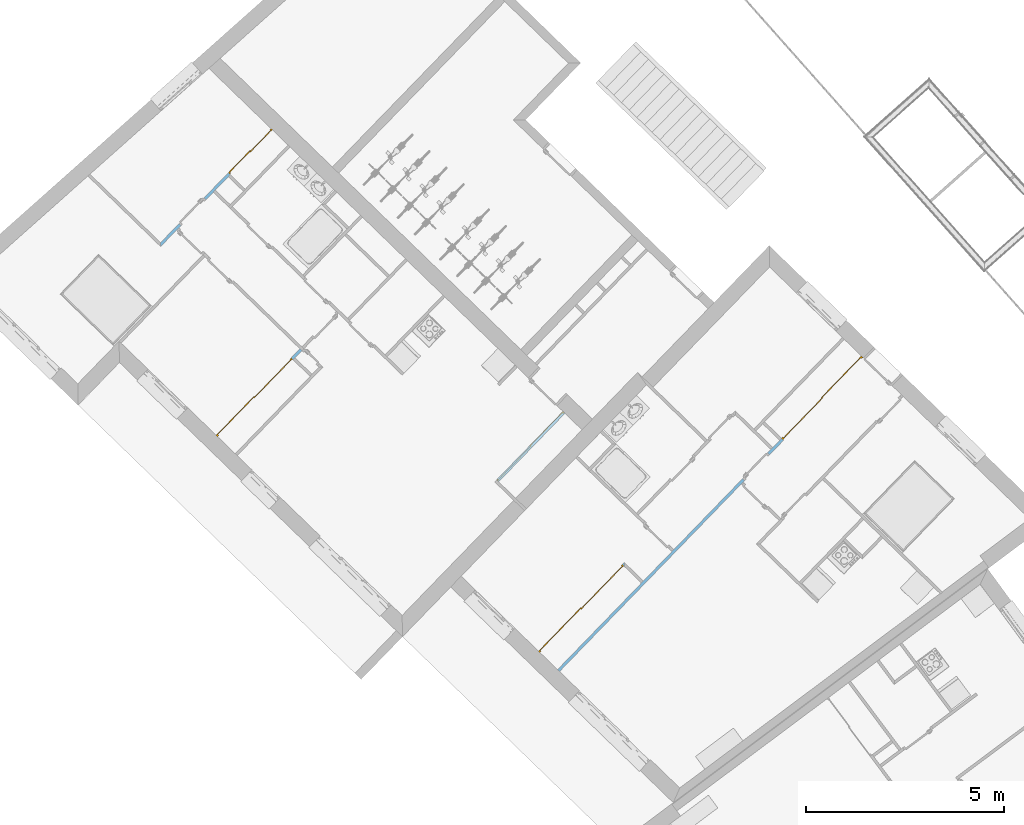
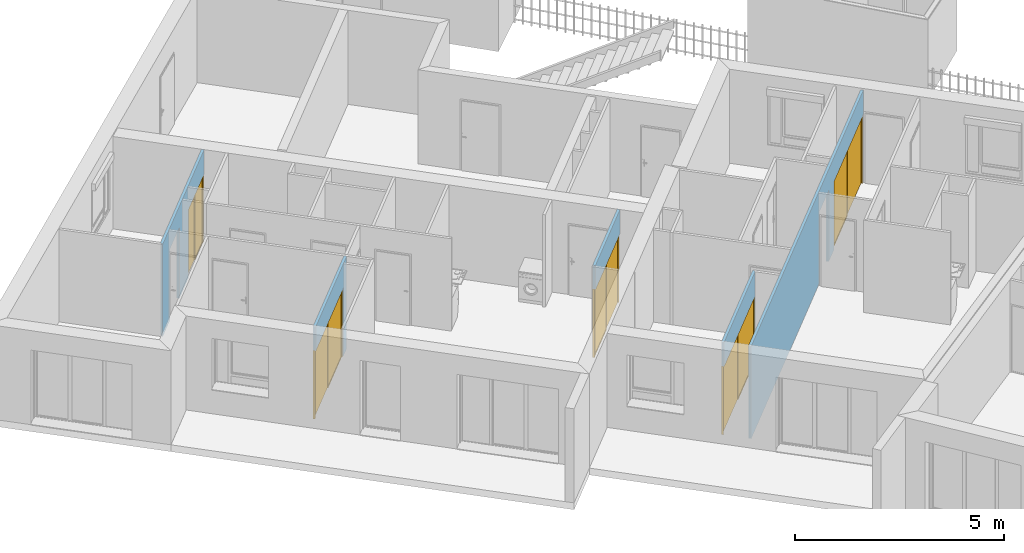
# One storey, part 108 of 195: 5 doors, 7 openings, plus 5 elements that do not belong to this part.
"""IFC2X3 building model written with IfcOpenShell, lengths in metres."""

from ifc_helpers import new_model, entity, si_unit, converted_unit, derived_unit, money_unit, direction, frame, origin_with_axes, origin_2d_with_axis, place, context, subcontext, project, spatial, polyline, rectangle, outline, extrude, open_shell, faceted_brep, surface_model, material, layer, layer_set, layer_usage, type_object, element, fill, save


model = new_model("IFC2X3")

# Units and contexts
model_context = context("Model", 3, precision=1e-05, world=origin_with_axes(), true_north=direction((0.0, 1.0)))
body_context = subcontext(model_context, "Body", "Model", "MODEL_VIEW")
ifc_project = project(units=[si_unit("LENGTHUNIT", "METRE"), si_unit("AREAUNIT", "SQUARE_METRE"), si_unit("VOLUMEUNIT", "CUBIC_METRE"), converted_unit("PLANEANGLEUNIT", "DEGREE", entity("IfcPlaneAngleMeasure", 0.0174532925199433), si_unit("PLANEANGLEUNIT", "RADIAN"), dimensions=[0, 0, 0, 0, 0, 0, 0]), money_unit("CHF"), converted_unit("TIMEUNIT", "Year", entity("IfcTimeMeasure", 31557600.0), si_unit("TIMEUNIT", "SECOND"), dimensions=[0, 0, 1, 0, 0, 0, 0]), si_unit("MASSUNIT", "GRAM", prefix="KILO"), si_unit("THERMODYNAMICTEMPERATUREUNIT", "DEGREE_CELSIUS"), si_unit("LUMINOUSINTENSITYUNIT", "LUMEN"), si_unit("ENERGYUNIT", "JOULE", prefix="MEGA"), derived_unit("THERMALCONDUCTANCEUNIT", [(si_unit("POWERUNIT", "WATT"), 1), (si_unit("LENGTHUNIT", "METRE"), -1), (si_unit("THERMODYNAMICTEMPERATUREUNIT", "KELVIN"), -1)]), derived_unit("SPECIFICHEATCAPACITYUNIT", [(si_unit("ENERGYUNIT", "JOULE"), 1), (si_unit("MASSUNIT", "GRAM", prefix="KILO"), -1), (si_unit("THERMODYNAMICTEMPERATUREUNIT", "KELVIN"), -1)]), derived_unit("MASSDENSITYUNIT", [(si_unit("MASSUNIT", "GRAM", prefix="KILO"), 1), (si_unit("VOLUMEUNIT", "CUBIC_METRE"), -1)])], contexts=[model_context])

# Site, building, storey
site_placement = place(None, origin_with_axes())
site = spatial("IfcSite", under=ifc_project, at=site_placement, Name="Site", CompositionType="ELEMENT")
building_placement = place(site_placement, origin_with_axes())
building = spatial("IfcBuilding", under=site, at=building_placement, Name="Bâtiment", CompositionType="ELEMENT")
storey_placement = place(building_placement, origin_with_axes())
storey = spatial("IfcBuildingStorey", under=building, at=storey_placement, Name="rdc", CompositionType="ELEMENT", Elevation=0.0)

# Wall, opening, door
ifc_material = material(Name="Hachure solide 268963992")
ifc_layer = layer(ifc_material, 0.07, ventilated="UNKNOWN")
ifc_layer_set = layer_set([ifc_layer], Name="Cloison 70 0826278243")
ifc_layer_usage_1 = layer_usage(ifc_layer_set, "AXIS2", "NEGATIVE", 0.0)
wall_type = type_object("IfcWallType", Name="Cloison 70 0826278243 70", PredefinedType="NOTDEFINED")
wall_1_placement = place(storey_placement, frame((9527.093406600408, -1065.523140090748, 57.7), z_axis=(0.0, 0.0, 1.0), x_axis=(-0.6958610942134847, -0.7181763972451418, 0.0)))
wall_1 = element("IfcWallStandardCase", 1, at=wall_1_placement, inside=storey, type_object=wall_type, material=ifc_layer_usage_1, Name="Mur-149", context=body_context, shape_type="SweptSolid", body=[
    extrude(outline(polyline([(0.3799999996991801, -0.06999999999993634), (2.788769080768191, -0.06999999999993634), (2.788769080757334, 0.0), (0.3799999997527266, 0.0), (0.3799999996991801, -0.06999999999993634)])), origin_with_axes(), (0.0, 0.0, 1.0), 2.7),
])
opening_1_placement = place(wall_1_placement, frame((1.584384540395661, 0.0, 0.0), z_axis=(0.0, 0.0, 1.0), x_axis=(1.0, 0.0, 0.0)))
opening_1 = element("IfcOpeningElement", 2, at=opening_1_placement, cuts=wall_1, Name="Por-338", context=body_context, shape_type="SweptSolid", body=[
    extrude(rectangle(XDim=2.408769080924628, YDim=2.0, at=origin_2d_with_axis()), frame((0.0, -0.07000000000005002, 1.0), z_axis=(0.0, 1.0, 0.0), x_axis=(1.0, 0.0, 0.0)), (0.0, 0.0, -1.0), 0.07),
    extrude(rectangle(XDim=2.408769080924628, YDim=2.0, at=origin_2d_with_axis()), frame((0.0, -0.07000000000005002, 1.0), z_axis=(0.0, -1.0, 0.0), x_axis=(1.0, 0.0, 0.0)), (0.0, 0.0, -1.0), 0.07),
])
door_style = type_object("IfcDoorStyle", ConstructionType="NOTDEFINED", OperationType="NOTDEFINED", ParameterTakesPrecedence=False, Sizeable=False)
door_1_placement = place(opening_1_placement, frame((1.204384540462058, 0.0, 0.0), z_axis=(0.0, 0.0, 1.0), x_axis=(-1.0, 0.0, 0.0)))
door_1 = element("IfcDoor", 3, at=door_1_placement, inside=storey, type_object=door_style, Name="Por-338", OverallHeight=2.0, OverallWidth=2.40877, context=body_context, shape_type="SurfaceModel", body=[
    faceted_brep([(2.408769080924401, 0.07000000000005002, 0.0), (2.368769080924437, 0.07000000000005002, 0.0), (2.368769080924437, 0.07000000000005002, 1.960000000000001), (0.03999999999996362, 0.07000000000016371, 1.960000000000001), (0.03999999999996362, 0.07000000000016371, 0.0), (0.0, 0.07000000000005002, 0.0), (0.0, 0.07000000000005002, 2.0), (2.408769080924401, 0.07000000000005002, 2.0), (2.408769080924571, 0.0200000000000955, 0.0), (2.368769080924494, 0.0200000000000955, 0.0), (2.368769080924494, 0.0300000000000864, 0.0), (2.368769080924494, 0.0300000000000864, 1.960000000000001), (0.03999999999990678, 0.02999999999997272, 1.960000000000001), (0.03999999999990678, 0.02999999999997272, 0.0), (0.03999999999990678, 0.0200000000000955, 0.0), (0.0, 0.0200000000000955, 0.0), (0.0, 0.0200000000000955, 2.0), (2.408769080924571, 0.0200000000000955, 2.0), (0.03999999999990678, 0.0200000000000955, 1.960000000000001), (2.368769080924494, 0.0200000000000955, 1.960000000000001)], [[[0, 1, 2, 3, 4, 5, 6, 7]], [[0, 8, 9, 10, 1]], [[1, 10, 11, 2]], [[2, 11, 12, 3]], [[3, 12, 13, 4]], [[5, 4, 13, 14, 15]], [[16, 6, 5, 15]], [[17, 7, 6, 16]], [[8, 0, 7, 17]], [[9, 8, 17, 16, 15, 14, 18, 19]], [[10, 9, 19, 11]], [[11, 19, 18, 12]], [[12, 18, 14, 13]]]),
    faceted_brep([(0.04000000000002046, 0.05000000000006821, 0.0), (1.219384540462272, 0.05000000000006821, 0.0), (1.219384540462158, 0.0300000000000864, 0.0), (0.03999999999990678, 0.02999999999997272, 0.0), (0.04000000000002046, 0.05000000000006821, 1.960000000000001), (1.219384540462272, 0.05000000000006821, 1.960000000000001), (0.06999999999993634, 0.05000000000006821, 0.03000000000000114), (1.189384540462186, 0.05000000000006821, 0.03000000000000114), (1.189384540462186, 0.05000000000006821, 1.93), (0.06999999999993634, 0.05000000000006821, 1.93), (1.219384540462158, 0.0300000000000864, 1.960000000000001), (0.03999999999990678, 0.02999999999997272, 1.960000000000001), (0.06999999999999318, 0.0300000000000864, 0.03000000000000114), (0.06999999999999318, 0.0300000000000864, 1.93), (1.189384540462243, 0.0300000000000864, 1.93), (1.189384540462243, 0.0300000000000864, 0.03000000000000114)], [[[0, 1, 2, 3]], [[0, 4, 5, 1], [6, 7, 8, 9]], [[1, 5, 10, 2]], [[3, 2, 10, 11], [12, 13, 14, 15]], [[4, 0, 3, 11]], [[5, 4, 11, 10]], [[7, 6, 12, 15]], [[8, 7, 15, 14]], [[9, 8, 14, 13]], [[6, 9, 13, 12]]]),
    surface_model("IfcShellBasedSurfaceModel", [(0.06999999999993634, 0.04000000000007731, 0.03000000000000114), (1.189384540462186, 0.04000000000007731, 0.03000000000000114), (1.189384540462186, 0.04000000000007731, 1.93), (0.06999999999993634, 0.04000000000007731, 1.93)], [open_shell([[[0, 1, 2, 3]]])]),
    faceted_brep([(1.189384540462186, 0.07000000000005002, 0.0), (2.368769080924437, 0.07000000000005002, 0.0), (2.368769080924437, 0.05000000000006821, 0.0), (1.189384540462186, 0.05000000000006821, 0.0), (1.189384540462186, 0.07000000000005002, 1.960000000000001), (2.368769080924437, 0.07000000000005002, 1.960000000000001), (2.368769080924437, 0.05000000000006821, 1.960000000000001), (1.189384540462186, 0.05000000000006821, 1.960000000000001)], [[[0, 1, 2, 3]], [[0, 4, 5, 1]], [[1, 5, 6, 2]], [[3, 2, 6, 7]], [[4, 0, 3, 7]], [[5, 4, 7, 6]]]),
])
fill(opening_1, door_1)

# Wall, openings, door
ifc_layer_usage_2 = layer_usage(ifc_layer_set, "AXIS2", "NEGATIVE", 0.0)
wall_2_placement = place(storey_placement, frame((9519.718672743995, -1058.377555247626, 57.7), z_axis=(0.0, 0.0, 1.0), x_axis=(-0.69586109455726, -0.7181763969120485, 0.0)))
wall_2 = element("IfcWallStandardCase", 4, at=wall_2_placement, inside=storey, type_object=wall_type, material=ifc_layer_usage_2, Name="Mur-149", context=body_context, shape_type="SweptSolid", body=[
    extrude(outline(polyline([(0.3799999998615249, -0.07000000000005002), (4.392299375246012, -0.06999999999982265), (4.462299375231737, 0.0), (0.3799999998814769, 0.0), (0.3799999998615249, -0.07000000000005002)])), origin_with_axes(), (0.0, 0.0, 1.0), 2.7),
])
opening_2_placement = place(wall_2_placement, frame((3.268545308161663, 0.0, 0.0), z_axis=(0.0, 0.0, 1.0), x_axis=(1.0, 0.0, 0.0)))
element("IfcOpeningElement", 5, at=opening_2_placement, cuts=wall_2, Name="Por-303", context=body_context, shape_type="SweptSolid", body=[
    extrude(rectangle(XDim=0.9099999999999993, YDim=2.079999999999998, at=origin_2d_with_axis()), frame((0.0, 0.07000000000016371, 1.039999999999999), z_axis=(0.0, 1.0, 0.0), x_axis=(1.0, 0.0, 0.0)), (0.0, 0.0, -1.0), 0.14),
])
opening_3_placement = place(wall_2_placement, frame((1.15726056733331, 0.0, 0.0), z_axis=(0.0, 0.0, 1.0), x_axis=(1.0, 0.0, 0.0)))
opening_3 = element("IfcOpeningElement", 6, at=opening_3_placement, cuts=wall_2, Name="Por-338", context=body_context, shape_type="SweptSolid", body=[
    extrude(rectangle(XDim=1.554521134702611, YDim=2.0, at=origin_2d_with_axis()), frame((0.0, -0.06999999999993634, 1.0), z_axis=(0.0, 1.0, 0.0), x_axis=(1.0, 0.0, 0.0)), (0.0, 0.0, -1.0), 0.07),
    extrude(rectangle(XDim=1.554521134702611, YDim=2.0, at=origin_2d_with_axis()), frame((0.0, -0.07000000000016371, 1.0), z_axis=(0.0, -1.0, 0.0), x_axis=(1.0, 0.0, 0.0)), (0.0, 0.0, -1.0), 0.07),
])
door_2_placement = place(opening_3_placement, frame((0.7772605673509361, 0.0, 0.0), z_axis=(0.0, 0.0, 1.0), x_axis=(-1.0, 0.0, 0.0)))
door_2 = element("IfcDoor", 7, at=door_2_placement, inside=storey, type_object=door_style, Name="Por-338", OverallHeight=2.0, OverallWidth=1.55452, context=body_context, shape_type="SurfaceModel", body=[
    faceted_brep([(0.0, 0.06999999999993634, 0.0), (0.0, 0.06999999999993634, 2.0), (1.554521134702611, 0.06999999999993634, 2.0), (1.554521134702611, 0.06999999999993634, 0.0), (1.514521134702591, 0.06999999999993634, 0.0), (1.514521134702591, 0.06999999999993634, 1.960000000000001), (0.04000000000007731, 0.06999999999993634, 1.960000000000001), (0.04000000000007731, 0.06999999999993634, 0.0), (0.0, 0.01999999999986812, 0.0), (0.0, 0.01999999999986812, 2.0), (1.554521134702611, 0.01999999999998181, 2.0), (1.554521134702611, 0.01999999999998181, 0.0), (1.514521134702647, 0.01999999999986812, 0.0), (1.514521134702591, 0.02999999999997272, 0.0), (1.514521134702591, 0.02999999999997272, 1.960000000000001), (0.04000000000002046, 0.02999999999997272, 1.960000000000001), (0.04000000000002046, 0.02999999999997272, 0.0), (0.04000000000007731, 0.01999999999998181, 0.0), (0.04000000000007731, 0.01999999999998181, 1.960000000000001), (1.514521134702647, 0.01999999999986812, 1.960000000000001)], [[[0, 1, 2, 3, 4, 5, 6, 7]], [[8, 9, 1, 0]], [[9, 10, 2, 1]], [[10, 11, 3, 2]], [[3, 11, 12, 13, 4]], [[5, 4, 13, 14]], [[6, 5, 14, 15]], [[7, 6, 15, 16]], [[0, 7, 16, 17, 8]], [[17, 18, 19, 12, 11, 10, 9, 8]], [[14, 13, 12, 19]], [[15, 14, 19, 18]], [[16, 15, 18, 17]]]),
    faceted_brep([(1.514521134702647, 0.04999999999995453, 0.0), (1.514521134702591, 0.02999999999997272, 0.0), (0.7622605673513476, 0.02999999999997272, 0.0), (0.7622605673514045, 0.04999999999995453, 0.0), (1.514521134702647, 0.04999999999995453, 1.960000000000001), (1.514521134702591, 0.02999999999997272, 1.960000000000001), (0.7622605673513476, 0.02999999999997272, 1.960000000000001), (1.484521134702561, 0.02999999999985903, 0.03000000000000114), (0.7922605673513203, 0.02999999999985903, 0.03000000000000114), (0.7922605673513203, 0.02999999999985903, 1.93), (1.484521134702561, 0.02999999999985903, 1.93), (0.7622605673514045, 0.04999999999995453, 1.960000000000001), (1.484521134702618, 0.04999999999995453, 0.03000000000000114), (1.484521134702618, 0.04999999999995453, 1.93), (0.792260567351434, 0.04999999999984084, 1.93), (0.792260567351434, 0.04999999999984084, 0.03000000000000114)], [[[0, 1, 2, 3]], [[4, 5, 1, 0]], [[1, 5, 6, 2], [7, 8, 9, 10]], [[3, 2, 6, 11]], [[0, 3, 11, 4], [12, 13, 14, 15]], [[11, 6, 5, 4]], [[15, 8, 7, 12]], [[14, 9, 8, 15]], [[13, 10, 9, 14]], [[12, 7, 10, 13]]]),
    surface_model("IfcShellBasedSurfaceModel", [(1.484521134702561, 0.03999999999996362, 0.03000000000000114), (1.484521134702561, 0.03999999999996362, 1.93), (0.7922605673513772, 0.03999999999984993, 1.93), (0.7922605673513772, 0.03999999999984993, 0.03000000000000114)], [open_shell([[[0, 1, 2, 3]]])]),
    faceted_brep([(0.7922605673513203, 0.06999999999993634, 0.0), (0.792260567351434, 0.04999999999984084, 0.0), (0.04000000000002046, 0.04999999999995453, 0.0), (0.04000000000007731, 0.06999999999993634, 0.0), (0.7922605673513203, 0.06999999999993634, 1.960000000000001), (0.792260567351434, 0.04999999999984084, 1.960000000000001), (0.04000000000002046, 0.04999999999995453, 1.960000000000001), (0.04000000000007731, 0.06999999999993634, 1.960000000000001)], [[[0, 1, 2, 3]], [[4, 5, 1, 0]], [[1, 5, 6, 2]], [[3, 2, 6, 7]], [[0, 3, 7, 4]], [[7, 6, 5, 4]]]),
])
fill(opening_3, door_2)

# Wall, opening, door
ifc_layer_usage_3 = layer_usage(ifc_layer_set, "AXIS2", "POSITIVE", 0.0)
wall_3_placement = place(storey_placement, frame((9520.181388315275, -1064.115358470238, 57.7), z_axis=(0.0, 0.0, 1.0), x_axis=(-0.6958610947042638, -0.7181763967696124, 0.0)))
wall_3 = element("IfcWallStandardCase", 8, at=wall_3_placement, inside=storey, type_object=wall_type, material=ifc_layer_usage_3, Name="Mur-149", context=body_context, shape_type="SweptSolid", body=[
    extrude(outline(polyline([(0.06999999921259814, 0.0), (3.111145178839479, 0.0), (3.111145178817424, 0.06999999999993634), (0.06999999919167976, 0.07000000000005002), (0.06999999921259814, 0.0)])), origin_with_axes(), (0.0, 0.0, 1.0), 2.7),
])
opening_4_placement = place(wall_3_placement, frame((1.75057258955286, 0.0, 0.0), z_axis=(0.0, 0.0, 1.0), x_axis=(1.0, 0.0, 0.0)))
opening_4 = element("IfcOpeningElement", 9, at=opening_4_placement, cuts=wall_3, Name="Por-337", context=body_context, shape_type="SweptSolid", body=[
    extrude(rectangle(XDim=2.721145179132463, YDim=2.0, at=origin_2d_with_axis()), frame((0.0, 0.0, 1.0), z_axis=(0.0, 1.0, 0.0), x_axis=(1.0, 0.0, 0.0)), (0.0, 0.0, -1.0), 0.07),
    extrude(rectangle(XDim=2.721145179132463, YDim=2.0, at=origin_2d_with_axis()), frame((0.0, 0.0, 1.0), z_axis=(0.0, -1.0, 0.0), x_axis=(1.0, 0.0, 0.0)), (0.0, 0.0, -1.0), 0.07),
])
door_3_placement = place(opening_4_placement, frame((1.360572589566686, 0.0, 0.0), z_axis=(0.0, 0.0, 1.0), x_axis=(-1.0, 0.0, 0.0)))
door_3 = element("IfcDoor", 10, at=door_3_placement, inside=storey, type_object=door_style, Name="Por-337", OverallHeight=2.0, OverallWidth=2.72114, context=body_context, shape_type="SurfaceModel", body=[
    faceted_brep([(0.0, 0.0, 0.0), (0.0, 0.0, 2.0), (2.721145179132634, 0.0, 2.0), (2.721145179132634, 0.0, 0.0), (2.681145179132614, 0.0, 0.0), (2.681145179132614, 0.0, 1.960000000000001), (0.03999999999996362, 0.0, 1.960000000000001), (0.03999999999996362, 0.0, 0.0), (0.0, -0.04999999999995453, 0.0), (0.0, -0.04999999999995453, 2.0), (2.721145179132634, -0.04999999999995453, 2.0), (2.721145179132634, -0.04999999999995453, 0.0), (2.681145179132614, -0.05000000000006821, 0.0), (2.681145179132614, -0.04000000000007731, 0.0), (2.681145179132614, -0.04000000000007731, 1.960000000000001), (0.04000000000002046, -0.03999999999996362, 1.960000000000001), (0.04000000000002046, -0.03999999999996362, 0.0), (0.03999999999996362, -0.04999999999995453, 0.0), (0.03999999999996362, -0.04999999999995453, 1.960000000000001), (2.681145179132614, -0.05000000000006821, 1.960000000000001)], [[[0, 1, 2, 3, 4, 5, 6, 7]], [[8, 9, 1, 0]], [[9, 10, 2, 1]], [[10, 11, 3, 2]], [[3, 11, 12, 13, 4]], [[5, 4, 13, 14]], [[6, 5, 14, 15]], [[7, 6, 15, 16]], [[0, 7, 16, 17, 8]], [[17, 18, 19, 12, 11, 10, 9, 8]], [[14, 13, 12, 19]], [[15, 14, 19, 18]], [[16, 15, 18, 17]]]),
    faceted_brep([(2.6811451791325, -0.01999999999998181, 0.0), (2.681145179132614, -0.04000000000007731, 0.0), (1.345572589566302, -0.04000000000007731, 0.0), (1.345572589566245, -0.01999999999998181, 0.0), (2.6811451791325, -0.01999999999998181, 1.960000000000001), (2.681145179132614, -0.04000000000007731, 1.960000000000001), (1.345572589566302, -0.04000000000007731, 1.960000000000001), (2.651145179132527, -0.04000000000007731, 0.03000000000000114), (1.375572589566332, -0.03999999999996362, 0.03000000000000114), (1.375572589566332, -0.03999999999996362, 1.93), (2.651145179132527, -0.04000000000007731, 1.93), (1.345572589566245, -0.01999999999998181, 1.960000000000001), (2.651145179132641, -0.01999999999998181, 0.03000000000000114), (2.651145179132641, -0.01999999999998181, 1.93), (1.375572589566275, -0.01999999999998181, 1.93), (1.375572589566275, -0.01999999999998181, 0.03000000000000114)], [[[0, 1, 2, 3]], [[4, 5, 1, 0]], [[1, 5, 6, 2], [7, 8, 9, 10]], [[3, 2, 6, 11]], [[0, 3, 11, 4], [12, 13, 14, 15]], [[11, 6, 5, 4]], [[15, 8, 7, 12]], [[14, 9, 8, 15]], [[13, 10, 9, 14]], [[12, 7, 10, 13]]]),
    surface_model("IfcShellBasedSurfaceModel", [(2.651145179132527, -0.02999999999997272, 0.03000000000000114), (2.651145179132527, -0.02999999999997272, 1.93), (1.375572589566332, -0.02999999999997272, 1.93), (1.375572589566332, -0.02999999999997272, 0.03000000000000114)], [open_shell([[[0, 1, 2, 3]]])]),
    faceted_brep([(1.375572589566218, 0.0, 0.0), (1.375572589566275, -0.01999999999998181, 0.0), (0.03999999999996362, -0.01999999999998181, 0.0), (0.03999999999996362, 0.0, 0.0), (1.375572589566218, 0.0, 1.960000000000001), (1.375572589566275, -0.01999999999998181, 1.960000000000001), (0.03999999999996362, -0.01999999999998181, 1.960000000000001), (0.03999999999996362, 0.0, 1.960000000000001)], [[[0, 1, 2, 3]], [[4, 5, 1, 0]], [[1, 5, 6, 2]], [[3, 2, 6, 7]], [[0, 3, 7, 4]], [[7, 6, 5, 4]]]),
])
fill(opening_4, door_3)

# Wall, openings, door
ifc_layer_usage_4 = layer_usage(ifc_layer_set, "AXIS2", "POSITIVE", 0.0)
wall_4_placement = place(storey_placement, frame((9534.584027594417, -1064.073933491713, 57.7), z_axis=(0.0, 0.0, 1.0), x_axis=(-0.695861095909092, -0.7181763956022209, 0.0)))
wall_4 = element("IfcWallStandardCase", 11, at=wall_4_placement, inside=storey, type_object=wall_type, material=ifc_layer_usage_4, Name="Mur-149", context=body_context, shape_type="SweptSolid", body=[
    extrude(outline(polyline([(0.3799999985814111, 0.0), (11.41300708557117, 0.0), (11.41300708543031, 0.06999999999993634), (0.3799999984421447, 0.07000000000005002), (0.3799999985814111, 0.0)])), origin_with_axes(), (0.0, 0.0, 1.0), 2.7),
])
opening_5_placement = place(wall_4_placement, frame((4.240435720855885, 0.0, 0.0), z_axis=(0.0, 0.0, 1.0), x_axis=(1.0, 0.0, 0.0)))
element("IfcOpeningElement", 12, at=opening_5_placement, cuts=wall_4, Name="Por-315", context=body_context, shape_type="SweptSolid", body=[
    extrude(rectangle(XDim=0.9099999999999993, YDim=2.079999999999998, at=origin_2d_with_axis()), frame((0.0, 0.06999999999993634, 1.039999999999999), z_axis=(0.0, -1.0, 0.0), x_axis=(-1.0, 0.0, 0.0)), (0.0, 0.0, 1.0), 0.14),
])
opening_6_placement = place(wall_4_placement, frame((1.828267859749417, 0.0, 0.0), z_axis=(0.0, 0.0, 1.0), x_axis=(1.0, 0.0, 0.0)))
opening_6 = element("IfcOpeningElement", 13, at=opening_6_placement, cuts=wall_4, Name="Por-342", context=body_context, shape_type="SweptSolid", body=[
    extrude(rectangle(XDim=2.896535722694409, YDim=2.0, at=origin_2d_with_axis()), frame((0.0, 0.0, 1.0), z_axis=(0.0, 1.0, 0.0), x_axis=(1.0, 0.0, 0.0)), (0.0, 0.0, -1.0), 0.07),
    extrude(rectangle(XDim=2.896535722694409, YDim=2.0, at=origin_2d_with_axis()), frame((0.0, 0.0, 1.0), z_axis=(0.0, -1.0, 0.0), x_axis=(1.0, 0.0, 0.0)), (0.0, 0.0, -1.0), 0.07),
])
door_4_placement = place(opening_6_placement, frame((1.448267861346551, 0.0, 0.0), z_axis=(0.0, 0.0, 1.0), x_axis=(-1.0, 0.0, 0.0)))
door_4 = element("IfcDoor", 14, at=door_4_placement, inside=storey, type_object=door_style, Name="Por-342", OverallHeight=2.0, OverallWidth=2.89654, context=body_context, shape_type="SurfaceModel", body=[
    faceted_brep([(2.896535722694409, 0.0, 0.0), (2.856535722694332, 0.0, 0.0), (2.856535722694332, 0.0, 1.960000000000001), (0.04000000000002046, 0.0, 1.960000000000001), (0.04000000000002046, 0.0, 0.0), (0.0, 0.0, 0.0), (0.0, 0.0, 2.0), (2.896535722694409, 0.0, 2.0), (2.896535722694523, -0.05000000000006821, 0.0), (2.856535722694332, -0.04999999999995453, 0.0), (2.856535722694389, -0.03999999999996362, 0.0), (2.856535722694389, -0.03999999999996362, 1.960000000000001), (0.04000000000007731, -0.03999999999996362, 1.960000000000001), (0.04000000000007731, -0.03999999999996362, 0.0), (0.04000000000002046, -0.04999999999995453, 0.0), (0.0, -0.05000000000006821, 0.0), (0.0, -0.05000000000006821, 2.0), (2.896535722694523, -0.05000000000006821, 2.0), (0.04000000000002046, -0.04999999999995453, 1.960000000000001), (2.856535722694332, -0.04999999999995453, 1.960000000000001)], [[[0, 1, 2, 3, 4, 5, 6, 7]], [[0, 8, 9, 10, 1]], [[1, 10, 11, 2]], [[2, 11, 12, 3]], [[3, 12, 13, 4]], [[5, 4, 13, 14, 15]], [[16, 6, 5, 15]], [[17, 7, 6, 16]], [[8, 0, 7, 17]], [[9, 8, 17, 16, 15, 14, 18, 19]], [[10, 9, 19, 11]], [[11, 19, 18, 12]], [[12, 18, 14, 13]]]),
    faceted_brep([(0.03999999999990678, -0.01999999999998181, 0.0), (1.463267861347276, -0.01999999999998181, 0.0), (1.463267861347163, -0.03999999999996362, 0.0), (0.04000000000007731, -0.03999999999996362, 0.0), (0.03999999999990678, -0.01999999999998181, 1.960000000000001), (1.463267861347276, -0.01999999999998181, 1.960000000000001), (0.06999999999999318, -0.01999999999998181, 0.03000000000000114), (1.43326786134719, -0.01999999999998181, 0.03000000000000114), (1.43326786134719, -0.01999999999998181, 1.93), (0.06999999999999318, -0.01999999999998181, 1.93), (1.463267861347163, -0.03999999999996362, 1.960000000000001), (0.04000000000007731, -0.03999999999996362, 1.960000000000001), (0.07000000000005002, -0.03999999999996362, 0.03000000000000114), (0.07000000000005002, -0.03999999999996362, 1.93), (1.433267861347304, -0.04000000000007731, 1.93), (1.433267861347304, -0.04000000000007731, 0.03000000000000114)], [[[0, 1, 2, 3]], [[0, 4, 5, 1], [6, 7, 8, 9]], [[1, 5, 10, 2]], [[3, 2, 10, 11], [12, 13, 14, 15]], [[4, 0, 3, 11]], [[5, 4, 11, 10]], [[7, 6, 12, 15]], [[8, 7, 15, 14]], [[9, 8, 14, 13]], [[6, 9, 13, 12]]]),
    surface_model("IfcShellBasedSurfaceModel", [(0.07000000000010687, -0.02999999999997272, 0.03000000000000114), (1.433267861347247, -0.02999999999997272, 0.03000000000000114), (1.433267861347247, -0.02999999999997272, 1.93), (0.07000000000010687, -0.02999999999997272, 1.93)], [open_shell([[[0, 1, 2, 3]]])]),
    faceted_brep([(1.433267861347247, 0.0, 0.0), (2.856535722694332, 0.0, 0.0), (2.856535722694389, -0.01999999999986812, 0.0), (1.43326786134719, -0.01999999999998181, 0.0), (1.433267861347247, 0.0, 1.960000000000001), (2.856535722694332, 0.0, 1.960000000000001), (2.856535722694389, -0.01999999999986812, 1.960000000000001), (1.43326786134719, -0.01999999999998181, 1.960000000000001)], [[[0, 1, 2, 3]], [[0, 4, 5, 1]], [[1, 5, 6, 2]], [[3, 2, 6, 7]], [[4, 0, 3, 7]], [[5, 4, 7, 6]]]),
])
fill(opening_6, door_4)

# Wall, opening, door
ifc_layer_usage_5 = layer_usage(ifc_layer_set, "AXIS2", "POSITIVE", 0.0)
wall_5_placement = place(storey_placement, frame((9528.329965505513, -1069.565718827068, 57.7), z_axis=(0.0, 0.0, 1.0), x_axis=(-0.6958610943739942, -0.7181763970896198, 0.0)))
wall_5 = element("IfcWallStandardCase", 15, at=wall_5_placement, inside=storey, type_object=wall_type, material=ifc_layer_usage_5, Name="Mur-149", context=body_context, shape_type="SweptSolid", body=[
    extrude(outline(polyline([(0.0, 0.0), (3.116977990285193, 0.0), (3.116977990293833, 0.06999999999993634), (0.07000000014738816, 0.07000000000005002), (0.0, 0.0)])), origin_with_axes(), (0.0, 0.0, 1.0), 2.7),
])
opening_7_placement = place(wall_5_placement, frame((1.593488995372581, 0.0, 0.0), z_axis=(0.0, 0.0, 1.0), x_axis=(1.0, 0.0, 0.0)))
opening_7 = element("IfcOpeningElement", 16, at=opening_7_placement, cuts=wall_5, Name="Por-341", context=body_context, shape_type="SweptSolid", body=[
    extrude(rectangle(XDim=3.046977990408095, YDim=2.0, at=origin_2d_with_axis()), frame((0.0, 0.0, 1.0), z_axis=(0.0, 1.0, 0.0), x_axis=(1.0, 0.0, 0.0)), (0.0, 0.0, -1.0), 0.07),
    extrude(rectangle(XDim=3.046977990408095, YDim=2.0, at=origin_2d_with_axis()), frame((0.0, 0.0, 1.0), z_axis=(0.0, -1.0, 0.0), x_axis=(1.0, 0.0, 0.0)), (0.0, 0.0, -1.0), 0.07),
])
door_5_placement = place(opening_7_placement, frame((1.523488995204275, 0.0, 0.0), z_axis=(0.0, 0.0, 1.0), x_axis=(-1.0, 0.0, 0.0)))
door_5 = element("IfcDoor", 17, at=door_5_placement, inside=storey, type_object=door_style, Name="Por-341", OverallHeight=2.0, OverallWidth=3.04698, context=body_context, shape_type="SurfaceModel", body=[
    faceted_brep([(0.0, 0.0, 0.0), (0.0, 0.0, 2.0), (3.046977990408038, 0.0, 2.0), (3.046977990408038, 0.0, 0.0), (3.006977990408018, 0.0, 0.0), (3.006977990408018, 0.0, 1.960000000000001), (0.03999999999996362, 0.0, 1.960000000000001), (0.03999999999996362, 0.0, 0.0), (0.0, -0.05000000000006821, 0.0), (0.0, -0.05000000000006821, 2.0), (3.046977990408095, -0.05000000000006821, 2.0), (3.046977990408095, -0.05000000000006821, 0.0), (3.006977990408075, -0.04999999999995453, 0.0), (3.006977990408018, -0.04000000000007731, 0.0), (3.006977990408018, -0.04000000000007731, 1.960000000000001), (0.03999999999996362, -0.04000000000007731, 1.960000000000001), (0.03999999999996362, -0.04000000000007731, 0.0), (0.03999999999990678, -0.04999999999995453, 0.0), (0.03999999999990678, -0.04999999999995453, 1.960000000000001), (3.006977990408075, -0.04999999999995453, 1.960000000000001)], [[[0, 1, 2, 3, 4, 5, 6, 7]], [[8, 9, 1, 0]], [[9, 10, 2, 1]], [[10, 11, 3, 2]], [[3, 11, 12, 13, 4]], [[5, 4, 13, 14]], [[6, 5, 14, 15]], [[7, 6, 15, 16]], [[0, 7, 16, 17, 8]], [[17, 18, 19, 12, 11, 10, 9, 8]], [[14, 13, 12, 19]], [[15, 14, 19, 18]], [[16, 15, 18, 17]]]),
    faceted_brep([(3.006977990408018, -0.0200000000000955, 0.0), (3.006977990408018, -0.04000000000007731, 0.0), (1.508488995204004, -0.04000000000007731, 0.0), (1.508488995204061, -0.0200000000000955, 0.0), (3.006977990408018, -0.0200000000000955, 1.960000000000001), (3.006977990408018, -0.04000000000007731, 1.960000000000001), (1.508488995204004, -0.04000000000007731, 1.960000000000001), (2.976977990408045, -0.03999999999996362, 0.03000000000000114), (1.538488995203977, -0.04000000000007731, 0.03000000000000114), (1.538488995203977, -0.04000000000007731, 1.93), (2.976977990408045, -0.03999999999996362, 1.93), (1.508488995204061, -0.0200000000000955, 1.960000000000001), (2.976977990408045, -0.01999999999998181, 0.03000000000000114), (2.976977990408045, -0.01999999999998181, 1.93), (1.538488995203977, -0.0200000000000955, 1.93), (1.538488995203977, -0.0200000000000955, 0.03000000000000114)], [[[0, 1, 2, 3]], [[4, 5, 1, 0]], [[1, 5, 6, 2], [7, 8, 9, 10]], [[3, 2, 6, 11]], [[0, 3, 11, 4], [12, 13, 14, 15]], [[11, 6, 5, 4]], [[15, 8, 7, 12]], [[14, 9, 8, 15]], [[13, 10, 9, 14]], [[12, 7, 10, 13]]]),
    surface_model("IfcShellBasedSurfaceModel", [(2.976977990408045, -0.0300000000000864, 0.03000000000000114), (2.976977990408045, -0.0300000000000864, 1.93), (1.538488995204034, -0.0300000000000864, 1.93), (1.538488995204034, -0.0300000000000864, 0.03000000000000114)], [open_shell([[[0, 1, 2, 3]]])]),
    faceted_brep([(1.538488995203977, 0.0, 0.0), (1.538488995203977, -0.0200000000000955, 0.0), (0.03999999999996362, -0.0200000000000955, 0.0), (0.03999999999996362, 0.0, 0.0), (1.538488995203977, 0.0, 1.960000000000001), (1.538488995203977, -0.0200000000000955, 1.960000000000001), (0.03999999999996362, -0.0200000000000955, 1.960000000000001), (0.03999999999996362, 0.0, 1.960000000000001)], [[[0, 1, 2, 3]], [[4, 5, 1, 0]], [[1, 5, 6, 2]], [[3, 2, 6, 7]], [[0, 3, 7, 4]], [[7, 6, 5, 4]]]),
])
fill(opening_7, door_5)

save(model, "model.ifc")
